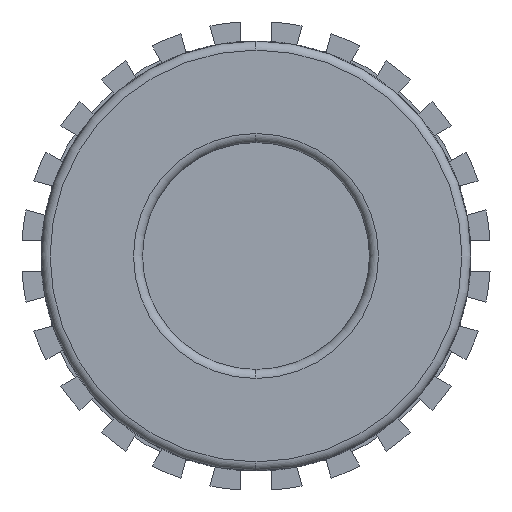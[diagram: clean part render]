
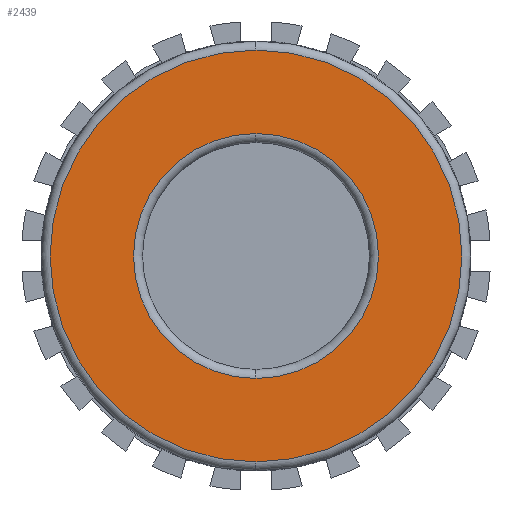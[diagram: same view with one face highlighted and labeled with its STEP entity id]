
A CAD part, left-side view. The second image highlights one B-rep face of the part: STEP entity #2439.
In plain terms, the highlighted planar face has unit normal (-1, 0, 0).
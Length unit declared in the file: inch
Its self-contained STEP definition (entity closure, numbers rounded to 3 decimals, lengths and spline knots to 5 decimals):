
#1058 = AXIS2_PLACEMENT_3D ( 'NONE', #3678, #3681, #3762 ) ;
#1848 = VERTEX_POINT ( 'NONE', #2107 ) ;
#1856 = VERTEX_POINT ( 'NONE', #2031 ) ;
#1866 = VERTEX_POINT ( 'NONE', #2002 ) ;
#1871 = VERTEX_POINT ( 'NONE', #2062 ) ;
#2002 = CARTESIAN_POINT ( 'NONE',  ( -4.6522, -0.17414, 0.67238 ) ) ;
#2031 = CARTESIAN_POINT ( 'NONE',  ( -4.6522, -0.17414, -1.13025 ) ) ;
#2062 = CARTESIAN_POINT ( 'NONE',  ( -4.6522, -0.17414, -0.67238 ) ) ;
#2107 = CARTESIAN_POINT ( 'NONE',  ( -4.6522, -0.17414, 1.13025 ) ) ;
#2439 = ADVANCED_FACE ( 'NONE', ( #4626, #4611 ), #3765, .F. ) ;
#2904 = EDGE_LOOP ( 'NONE', ( #3495, #3337 ) ) ;
#3298 = ORIENTED_EDGE ( 'NONE', *, *, #4488, .T. ) ;
#3330 = EDGE_LOOP ( 'NONE', ( #3509, #3298 ) ) ;
#3337 = ORIENTED_EDGE ( 'NONE', *, *, #4679, .T. ) ;
#3495 = ORIENTED_EDGE ( 'NONE', *, *, #4506, .T. ) ;
#3509 = ORIENTED_EDGE ( 'NONE', *, *, #4635, .T. ) ;
#3595 = AXIS2_PLACEMENT_3D ( 'NONE', #3903, #3904, #3905 ) ;
#3604 = AXIS2_PLACEMENT_3D ( 'NONE', #3948, #3949, #3950 ) ;
#3610 = AXIS2_PLACEMENT_3D ( 'NONE', #3974, #3975, #3976 ) ;
#3620 = AXIS2_PLACEMENT_3D ( 'NONE', #4074, #4075, #4076 ) ;
#3678 = CARTESIAN_POINT ( 'NONE',  ( -4.6522, -0.17414, 0. ) ) ;
#3681 = DIRECTION ( 'NONE',  ( 1., 0., 0. ) ) ;
#3762 = DIRECTION ( 'NONE',  ( 0., 0., -1. ) ) ;
#3765 = PLANE ( 'NONE',  #1058 ) ;
#3903 = CARTESIAN_POINT ( 'NONE',  ( -4.6522, -0.17414, 0. ) ) ;
#3904 = DIRECTION ( 'NONE',  ( -1., 0., 0. ) ) ;
#3905 = DIRECTION ( 'NONE',  ( 0., 0., -1. ) ) ;
#3948 = CARTESIAN_POINT ( 'NONE',  ( -4.6522, -0.17414, 0. ) ) ;
#3949 = DIRECTION ( 'NONE',  ( 1., 0., 0. ) ) ;
#3950 = DIRECTION ( 'NONE',  ( 0., 0., -1. ) ) ;
#3974 = CARTESIAN_POINT ( 'NONE',  ( -4.6522, -0.17414, 0. ) ) ;
#3975 = DIRECTION ( 'NONE',  ( -1., 0., 0. ) ) ;
#3976 = DIRECTION ( 'NONE',  ( 0., 0., -1. ) ) ;
#4074 = CARTESIAN_POINT ( 'NONE',  ( -4.6522, -0.17414, 0. ) ) ;
#4075 = DIRECTION ( 'NONE',  ( 1., 0., 0. ) ) ;
#4076 = DIRECTION ( 'NONE',  ( 0., 0., -1. ) ) ;
#4240 = CIRCLE ( 'NONE', #3595, 1.13025 ) ;
#4266 = CIRCLE ( 'NONE', #3604, 0.67238 ) ;
#4271 = CIRCLE ( 'NONE', #3610, 1.13025 ) ;
#4357 = CIRCLE ( 'NONE', #3620, 0.67238 ) ;
#4488 = EDGE_CURVE ( 'NONE', #1848, #1856, #4240, .T. ) ;
#4506 = EDGE_CURVE ( 'NONE', #1871, #1866, #4266, .T. ) ;
#4611 = FACE_OUTER_BOUND ( 'NONE', #3330, .T. ) ;
#4626 = FACE_BOUND ( 'NONE', #2904, .T. ) ;
#4635 = EDGE_CURVE ( 'NONE', #1856, #1848, #4271, .T. ) ;
#4679 = EDGE_CURVE ( 'NONE', #1866, #1871, #4357, .T. ) ;
